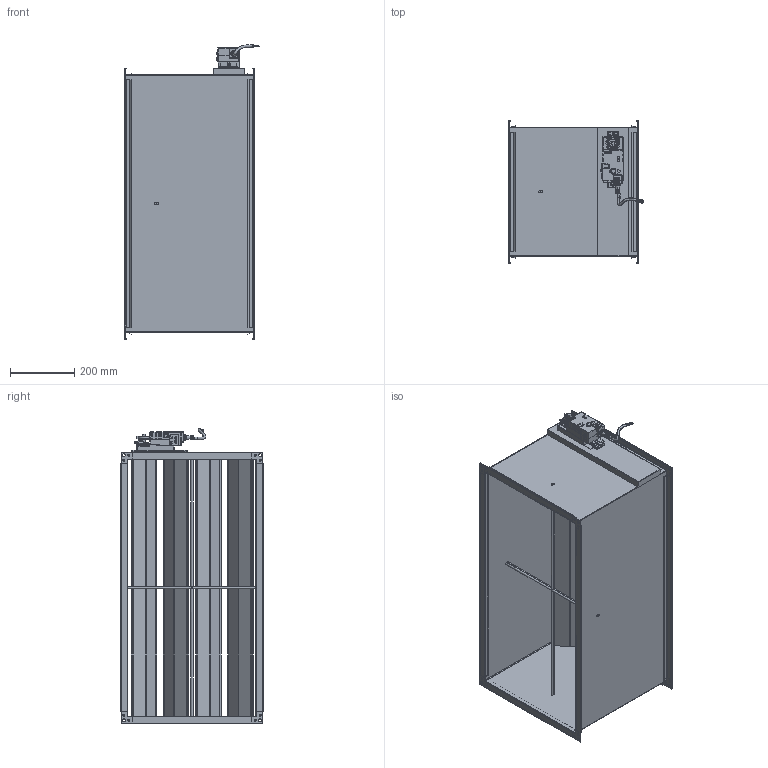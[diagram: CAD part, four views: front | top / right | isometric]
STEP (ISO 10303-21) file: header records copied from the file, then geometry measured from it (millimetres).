
FILE_DESCRIPTION (( 'STEP AP214' ), '1' );
FILE_NAME ('VAV-S800400.STEP', '2025-05-08T11:49:58', ( '' ), ( '' ), 'SwSTEP 2.0', 'SolidWorks 2025', '' );
FILE_SCHEMA (( 'AUTOMOTIVE_DESIGN' ));
Length unit declared in the file: millimetre
Products named in the file (1): VAV-S800400
Bounding box: 419.98 x 441 x 913.68 mm (x, y, z)
Surface area: 3665115.4 mm2 (no closed solid volume)
Topology: 0 solids, 48 shells, 2078 faces, 5412 edges, 3439 vertices
Faces by surface type: plane 1533, cylinder 492, bspline 24, sphere 18, cone 10, torus 1
Full cylindrical faces by diameter (mm): 1 x4, 6 x17, 8 x1, 9 x8, 11 x1, 20 x1, 21 x2
Entity records: 91037 total; most frequent: CARTESIAN_POINT 41235, ORIENTED_EDGE 10611, DIRECTION 6797, EDGE_CURVE 5329, VERTEX_POINT 3413, B_SPLINE_CURVE_WITH_KNOTS 3154, AXIS2_PLACEMENT_3D 2591, EDGE_LOOP 2281
